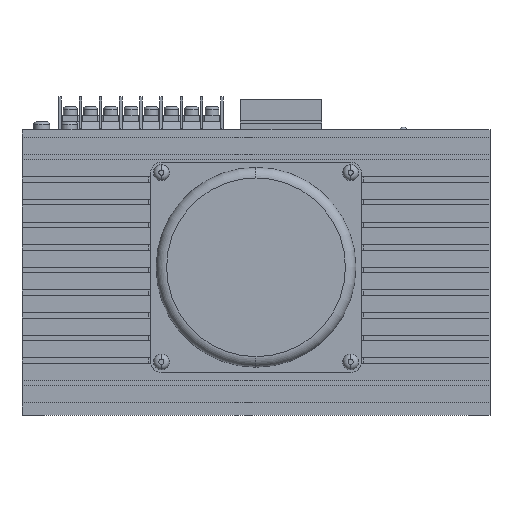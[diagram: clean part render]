
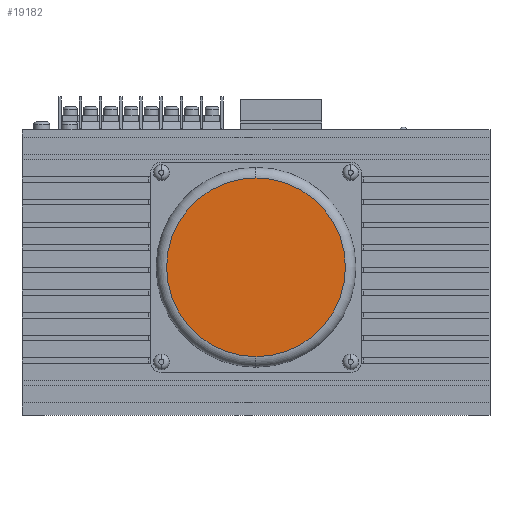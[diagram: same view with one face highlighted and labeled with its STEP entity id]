
A CAD part, front view. The second image highlights one B-rep face of the part: STEP entity #19182.
In plain terms, the highlighted planar face has unit normal (0, -1, 0).
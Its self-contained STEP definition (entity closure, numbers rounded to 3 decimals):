
#2123 = DIRECTION ( 'NONE',  ( 0., -1., 0. ) ) ;
#2208 = VERTEX_POINT ( 'NONE', #13234 ) ;
#3665 = CARTESIAN_POINT ( 'NONE',  ( 0., -8., 1.95 ) ) ;
#5225 = FACE_OUTER_BOUND ( 'NONE', #6743, .T. ) ;
#6743 = EDGE_LOOP ( 'NONE', ( #17158, #18204 ) ) ;
#7951 = CARTESIAN_POINT ( 'NONE',  ( 0., -8., -32.05 ) ) ;
#8513 = CARTESIAN_POINT ( 'NONE',  ( 0., -8., 1.95 ) ) ;
#10309 = DIRECTION ( 'NONE',  ( 0., -1., 0. ) ) ;
#11595 = DIRECTION ( 'NONE',  ( 0., -1., 0. ) ) ;
#11741 = AXIS2_PLACEMENT_3D ( 'NONE', #8513, #11595, #14794 ) ;
#12374 = CIRCLE ( 'NONE', #11741, 34. ) ;
#12938 = VERTEX_POINT ( 'NONE', #7951 ) ;
#13234 = CARTESIAN_POINT ( 'NONE',  ( 0., -8., 35.95 ) ) ;
#14447 = AXIS2_PLACEMENT_3D ( 'NONE', #3665, #2123, #15942 ) ;
#14794 = DIRECTION ( 'NONE',  ( 0., 0., -1. ) ) ;
#15463 = DIRECTION ( 'NONE',  ( 0., 0., -1. ) ) ;
#15942 = DIRECTION ( 'NONE',  ( 0., 0., -1. ) ) ;
#16826 = EDGE_CURVE ( 'NONE', #12938, #2208, #12374, .T. ) ;
#17158 = ORIENTED_EDGE ( 'NONE', *, *, #16826, .T. ) ;
#18204 = ORIENTED_EDGE ( 'NONE', *, *, #19687, .T. ) ;
#19182 = ADVANCED_FACE ( 'NONE', ( #5225 ), #19459, .T. ) ;
#19353 = AXIS2_PLACEMENT_3D ( 'NONE', #20104, #10309, #15463 ) ;
#19459 = PLANE ( 'NONE',  #14447 ) ;
#19687 = EDGE_CURVE ( 'NONE', #2208, #12938, #20048, .T. ) ;
#20048 = CIRCLE ( 'NONE', #19353, 34. ) ;
#20104 = CARTESIAN_POINT ( 'NONE',  ( 0., -8., 1.95 ) ) ;
